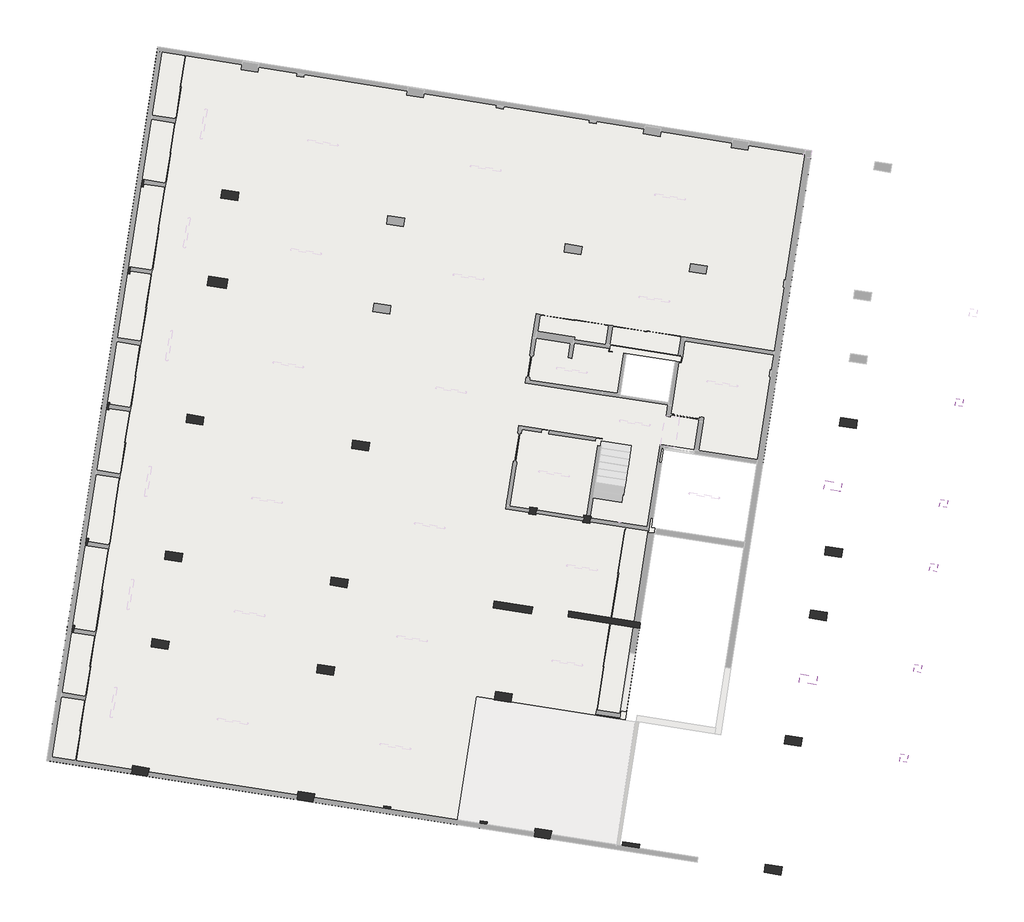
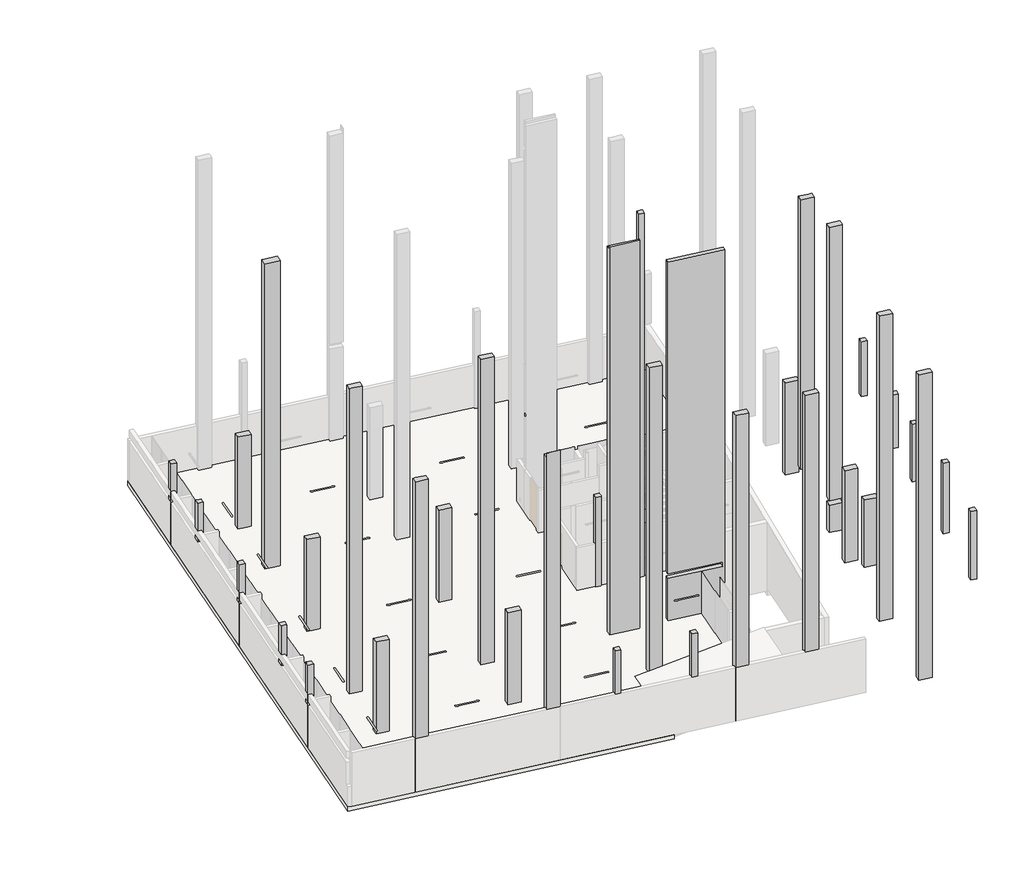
# One storey, part 2 of 5: 36 columns, 1 slab.
"""IFC4 building model written with IfcOpenShell, lengths in millimetres."""

import ifcopenshell
import ifcopenshell.guid

model = None  # the IFC model being written
_history = None  # IfcOwnerHistory: only IFC2X3 demands one
_inside = {}  # id of a spatial element -> (the spatial element, [elements in it])
_under = {}  # id of a project, library or spatial element -> (it, [spatial elements below it])
_declared = {}  # id of a project -> (the project, [libraries it declares])
_typed = {}  # id of a type object -> (the type object, [elements of that type])
_made_of = {}  # id of a material, layer set ... -> (it, [elements and type objects made of it])


def new_model(schema):
    """Start an empty IFC model of exactly this schema.

    Asked for "IFC4X3", IfcOpenShell would pick the latest addendum, in which some entities
    have other attributes; the version numbers below select the first issue.
    IFC2X3 requires an IfcOwnerHistory on every rooted entity: one is made here for all.
    """
    global model, _history
    if schema == "IFC4X3":
        model = ifcopenshell.file(schema_version=(4, 3, 0, 0))
    else:
        model = ifcopenshell.file(schema=schema)
    _inside.clear()
    _under.clear()
    _declared.clear()
    _typed.clear()
    _made_of.clear()
    _history = None
    if model.schema == "IFC2X3":
        org = make("IfcOrganization", Name="unknown")
        user = make(
            "IfcPersonAndOrganization",
            ThePerson=make("IfcPerson", FamilyName="unknown"),
            TheOrganization=org,
        )
        app = make(
            "IfcApplication",
            ApplicationDeveloper=org,
            Version="unknown",
            ApplicationFullName="unknown",
            ApplicationIdentifier="unknown",
        )
        _history = make(
            "IfcOwnerHistory",
            OwningUser=user,
            OwningApplication=app,
            ChangeAction="ADDED",
            CreationDate=0,
        )
    return model


def make(cls, **values):
    """One entity of the class cls with the attributes given. An attribute that is None is left unset."""
    return model.create_entity(
        cls, **{name: value for name, value in values.items() if value is not None}
    )


def rooted(cls, **values):
    """An entity with a GlobalId (a new one), such as an element, a storey or a relation."""
    return make(cls, GlobalId=ifcopenshell.guid.new(), OwnerHistory=_history, **values)


def si_unit(unit_type, name, prefix=None):
    """IfcSIUnit, for example si_unit("LENGTHUNIT", "METRE", prefix="MILLI")."""
    return make("IfcSIUnit", UnitType=unit_type, Prefix=prefix, Name=name)


def assignment(units):
    """IfcUnitAssignment: the units of a project."""
    return None if units is None else make("IfcUnitAssignment", Units=units)


def point(xyz):
    """IfcCartesianPoint."""
    return None if xyz is None else make("IfcCartesianPoint", Coordinates=xyz)


def direction(xyz):
    """IfcDirection."""
    return None if xyz is None else make("IfcDirection", DirectionRatios=xyz)


def frame(location, z_axis=None, x_axis=None):
    """IfcAxis2Placement3D, a coordinate frame: its origin and axes. An axis left out is left unset."""
    return make(
        "IfcAxis2Placement3D",
        Location=point(location),
        Axis=direction(z_axis),
        RefDirection=direction(x_axis),
    )


def origin():
    """The frame at (0, 0, 0) with its axes left unset."""
    return frame((0.0, 0.0, 0.0))


def place(relative_to, where):
    """IfcLocalPlacement: puts the frame where relative to a parent placement (None: the world)."""
    return make(
        "IfcLocalPlacement", PlacementRelTo=relative_to, RelativePlacement=where
    )


def context(
    kind, dimensions, precision=None, world=None, true_north=None, identifier=None
):
    """IfcGeometricRepresentationContext, for example the 3D "Model" context."""
    return make(
        "IfcGeometricRepresentationContext",
        ContextIdentifier=identifier,
        ContextType=kind,
        CoordinateSpaceDimension=dimensions,
        Precision=precision,
        WorldCoordinateSystem=world,
        TrueNorth=true_north,
    )


def project(units=None, contexts=None):
    """IfcProject with its units and contexts."""
    return rooted(
        "IfcProject",
        Name="project",
        RepresentationContexts=contexts,
        UnitsInContext=assignment(units),
    )


def spatial(cls, under=None, at=None, **own):
    """A site, building, storey or space (cls), placed at a placement, below another one or the project."""
    s = rooted(cls, ObjectPlacement=at, **own)
    if under is not None:
        _under.setdefault(under.id(), (under, []))[1].append(s)
    return s


def polyline(points):
    """IfcPolyline through the points."""
    return make("IfcPolyline", Points=[point(p) for p in points])


def outline(outer, holes=None, kind="AREA"):
    """IfcArbitraryClosedProfileDef: a profile drawn as a closed curve; with holes, ...WithVoids."""
    if holes is None:
        return make("IfcArbitraryClosedProfileDef", ProfileType=kind, OuterCurve=outer)
    return make(
        "IfcArbitraryProfileDefWithVoids",
        ProfileType=kind,
        OuterCurve=outer,
        InnerCurves=holes,
    )


def extrude(swept, where, along, depth):
    """IfcExtrudedAreaSolid: the profile swept, set in the frame where, extruded along a direction by depth."""
    return make(
        "IfcExtrudedAreaSolid",
        SweptArea=swept,
        Position=where,
        ExtrudedDirection=direction(along),
        Depth=depth,
    )


def faces_of(points, faces, orient=None, outer=None):
    """IfcFace entities. A face is a list of loops; a loop is a list of indices into points, from 0.

    orient and outer hold one flag for each loop. By default every Orientation is true, the
    first loop of a face is its IfcFaceOuterBound and the others are IfcFaceBound.
    """
    made = []
    for i, loops in enumerate(faces):
        bounds = []
        for j, loop in enumerate(loops):
            is_outer = j == 0 if outer is None else outer[i][j]
            bounds.append(
                make(
                    "IfcFaceOuterBound" if is_outer else "IfcFaceBound",
                    Bound=make("IfcPolyLoop", Polygon=[points[k] for k in loop]),
                    Orientation=True if orient is None else orient[i][j],
                )
            )
        made.append(make("IfcFace", Bounds=bounds))
    return made


def faceted_brep(points, faces, orient=None, outer=None, voids=None):
    """IfcFacetedBrep: a solid bounded by flat faces; with voids (closed shells), ...WithVoids."""
    shared = [point(p) for p in points]
    hull = make("IfcClosedShell", CfsFaces=faces_of(shared, faces, orient, outer))
    if voids is None:
        return make("IfcFacetedBrep", Outer=hull)
    return make(
        "IfcFacetedBrepWithVoids",
        Outer=hull,
        Voids=[
            make(cls, CfsFaces=faces_of(shared, fs, o, b)) for cls, fs, o, b in voids
        ],
    )


def shape(context_of_items, identifier, shape_type, items):
    """IfcShapeRepresentation: the items that make up one representation, for example the "Body"."""
    return make(
        "IfcShapeRepresentation",
        ContextOfItems=context_of_items,
        RepresentationIdentifier=identifier,
        RepresentationType=shape_type,
        Items=items,
    )


def made_of(thing, what):
    """Note that an element or type object is made of a material, layer set ...; save() writes the relation."""
    if what is not None:
        _made_of.setdefault(what.id(), (what, []))[1].append(thing)
    return thing


def element(
    cls,
    number,
    at=None,
    inside=None,
    cuts=None,
    type_object=None,
    material=None,
    context=None,
    identifier="Body",
    shape_type=None,
    held_by="IfcProductDefinitionShape",
    body=None,
    shapes=None,
    **own,
):
    """One element of the class cls, such as IfcWall. Its Tag is "e" and its number.

    at: its placement. inside: the storey or other place that contains it. cuts: it is an
    opening in that element (IfcRelVoidsElement). A single representation is given by context,
    identifier, shape_type and body (its items); several are given by shapes. held_by: the class
    of the entity that holds the representations. save() writes the other relations.
    """
    e = rooted(cls, Tag="e%d" % number, ObjectPlacement=at, **own)
    if body is not None:
        shapes = [shape(context, identifier, shape_type, body)]
    if shapes is not None:
        e.Representation = make(held_by, Representations=shapes)
    if inside is not None:
        _inside.setdefault(inside.id(), (inside, []))[1].append(e)
    if cuts is not None:
        rooted(
            "IfcRelVoidsElement", RelatingBuildingElement=cuts, RelatedOpeningElement=e
        )
    if type_object is not None:
        _typed.setdefault(type_object.id(), (type_object, []))[1].append(e)
    return made_of(e, material)


def aggregate(whole, parts):
    """IfcRelAggregates: a whole, such as a stair, and the parts it consists of."""
    return rooted("IfcRelAggregates", RelatingObject=whole, RelatedObjects=parts)


def save(model, path):
    """Write the relations noted so far, then the file.

    IfcRelAggregates (storeys below a building ...), IfcRelContainedInSpatialStructure (elements
    in a storey), IfcRelDefinesByType, IfcRelAssociatesMaterial and IfcRelDeclares: one each for
    every whole, place, type object, material and project.
    """
    for whole, parts in _under.values():
        aggregate(whole, parts)
    for where, things in _inside.values():
        rooted(
            "IfcRelContainedInSpatialStructure",
            RelatedElements=things,
            RelatingStructure=where,
        )
    for kind, things in _typed.values():
        rooted("IfcRelDefinesByType", RelatedObjects=things, RelatingType=kind)
    for what, things in _made_of.values():
        rooted("IfcRelAssociatesMaterial", RelatedObjects=things, RelatingMaterial=what)
    for by, libraries in _declared.values():
        rooted("IfcRelDeclares", RelatingContext=by, RelatedDefinitions=libraries)
    model.write(path)


model = new_model("IFC4")

# Units and contexts
model_context = context("Model", 3, world=origin())
ifc_project = project(units=[si_unit("LENGTHUNIT", "METRE", prefix="MILLI")], contexts=[model_context])

# Site, building, storey
site = spatial("IfcSite", under=ifc_project)
building = spatial("IfcBuilding", under=site)
storey = spatial("IfcBuildingStorey", under=building, Name="SÓTANO 2", Elevation=-5800.0)

# Columns
placement = place(None, origin())
element("IfcColumn", 1, ObjectType="M_Hormigón-Rectangular-Pilar : C1 (30 X 30)", at=placement, inside=storey, context=model_context, shape_type="Brep", body=[
    faceted_brep([(-33742.5716345, -69369.5377689, -5800.0), (-33733.4293193, -69310.8841223, -5800.0), (-33710.3278374, -69162.6737262, -5800.0), (-33696.3686707, -69073.1169766, -5800.0), (-33577.8003824, -69091.5981576, -5800.0), (-33429.5899863, -69114.6996395, -5800.0), (-33399.9478784, -69119.3199404, -5800.0), (-33409.2867487, -69179.2346107, -5800.0), (-33437.008527, -69357.0870861, -5800.0), (-33446.1508422, -69415.7407327, -5800.0), (-33742.5716345, -69369.5377689, 16000.0), (-33730.2508281, -69290.492121, 16000.0), (-33696.3686707, -69073.1169766, 16000.0), (-33696.3686707, -69073.1169766, 12800.0), (-33696.3686707, -69073.1169766, 9600.0), (-33696.3686707, -69073.1169766, 6400.0), (-33696.3686707, -69073.1169766, 3200.0), (-33696.3686707, -69073.1169766, 0.0), (-33742.5716345, -69369.5377689, 0.0), (-33742.5716345, -69369.5377689, 2920.0), (-33742.5716345, -69369.5377689, 3200.0), (-33742.5716345, -69369.5377689, 6120.0), (-33742.5716345, -69369.5377689, 6400.0), (-33742.5716345, -69369.5377689, 9320.0), (-33742.5716345, -69369.5377689, 9600.0), (-33742.5716345, -69369.5377689, 12520.0), (-33742.5716345, -69369.5377689, 12800.0), (-33742.5716345, -69369.5377689, 15720.0), (-33587.6810469, -69090.0580633, 16000.0), (-33508.6355022, -69102.3788536, 16000.0), (-33399.9478784, -69119.3199404, 16000.0), (-33399.9478784, -69119.3199404, 12800.0), (-33399.9478784, -69119.3199404, 9600.0), (-33399.9478784, -69119.3199404, 6400.0), (-33399.9478784, -69119.3199404, 3200.0), (-33399.9478784, -69119.3199404, 0.0), (-33419.9691456, -69247.7688407, 16000.0), (-33423.0493432, -69267.5302268, 16000.0), (-33446.1508422, -69415.7407327, 16000.0), (-33446.1508422, -69415.7407327, 15720.0), (-33446.1508422, -69415.7407327, 12800.0), (-33446.1508422, -69415.7407327, 12520.0), (-33446.1508422, -69415.7407327, 9600.0), (-33446.1508422, -69415.7407327, 9320.0), (-33446.1508422, -69415.7407327, 6400.0), (-33446.1508422, -69415.7407327, 6120.0), (-33446.1508422, -69415.7407327, 3200.0), (-33446.1508422, -69415.7407327, 0.0)], [[[0, 1, 2, 3, 4, 5, 6, 7, 8, 9]], [[10, 11, 12, 13, 14, 15, 16, 17, 3, 2, 1, 0, 18, 19, 20, 21, 22, 23, 24, 25, 26, 27]], [[12, 28, 29, 30, 31, 32, 33, 34, 35, 6, 5, 4, 3, 17, 16, 15, 14, 13]], [[30, 36, 37, 38, 39, 40, 41, 42, 43, 44, 45, 46, 47, 9, 8, 7, 6, 35, 34, 33, 32, 31]], [[38, 10, 27, 26, 25, 24, 23, 22, 21, 20, 19, 18, 0, 9, 47, 46, 45, 44, 43, 42, 41, 40, 39]], [[10, 38, 37, 36, 30, 29, 28, 12, 11]]]),
])
element("IfcColumn", 2, ObjectType="M_Hormigón-Rectangular-Pilar : C1 (30 X 30)", at=placement, inside=storey, context=model_context, shape_type="Brep", body=[
    faceted_brep([(-35980.5488549, -69020.7053495, -5800.0), (-35971.4065402, -68962.0517084, -5800.0), (-35948.3050574, -68813.8413123, -5800.0), (-35934.3458893, -68724.2845574, -5800.0), (-35637.9250973, -68770.4875229, -5800.0), (-35651.8842651, -68860.0442761, -5800.0), (-35674.9857479, -69008.2546722, -5800.0), (-35684.1280628, -69066.908315, -5800.0), (-35980.5488549, -69020.7053495, -430.0), (-35971.4065402, -68962.0517086, -430.0), (-35948.3050575, -68813.8413125, -430.0), (-35934.3458893, -68724.2845574, -430.0), (-35934.3458893, -68724.2845574, -450.0), (-35810.837034, -68743.535823, -430.0), (-35637.9250973, -68770.4875229, -430.0), (-35651.8842651, -68860.0442763, -430.0), (-35674.9857479, -69008.2546724, -430.0), (-35684.1280628, -69066.908315, -430.0)], [[[0, 1, 2, 3, 4, 5, 6, 7]], [[8, 9, 10, 11, 12, 3, 2, 1, 0]], [[11, 13, 14, 4, 3, 12]], [[14, 15, 16, 17, 7, 6, 5, 4]], [[17, 8, 0, 7]], [[8, 17, 16, 15, 14, 13, 11, 10, 9]]]),
])
element("IfcColumn", 3, ObjectType="M_Hormigón-Rectangular-Pilar : C1 (30 X 30)", at=placement, inside=storey, context=model_context, shape_type="SweptSolid", body=[
    extrude(outline(polyline([(-42032.6110255, -81421.5791362), (-41986.4080618, -81125.1583439), (-41689.9872694, -81171.3613077), (-41736.1902332, -81467.7821), (-42032.6110255, -81421.5791362)])), frame((0.0, 0.0, -5800.0), z_axis=(0.0, 0.0, 1.0), x_axis=(1.0, 0.0, 0.0)), (0.0, 0.0, 1.0), 5800.0),
])
element("IfcColumn", 4, ObjectType="M_Hormigón-Rectangular-Pilar : C1 (30 X 30)", at=placement, inside=storey, context=model_context, shape_type="SweptSolid", body=[
    extrude(outline(polyline([(-38040.8110247, -82043.7790481), (-37994.6080609, -81747.3582558), (-37698.1872686, -81793.5612195), (-37744.3902323, -82089.9820119), (-38040.8110247, -82043.7790481)])), frame((0.0, 0.0, -5800.0), z_axis=(0.0, 0.0, 1.0), x_axis=(1.0, 0.0, 0.0)), (0.0, 0.0, 1.0), 5800.0),
])
element("IfcColumn", 5, ObjectType="M_Hormigón-Rectangular-Pilar : C1 (30 X 30)", at=placement, inside=storey, context=model_context, shape_type="Brep", body=[
    faceted_brep([(-55124.0426326, -73891.164579, -5800.0), (-55077.8396689, -73594.7437866, -5800.0), (-54781.4188765, -73640.9467504, -5800.0), (-54802.1118601, -73773.7051298, -5800.0), (-54827.6218403, -73937.3675428, -5800.0), (-54926.4287711, -73921.9665548, -5800.0), (-55124.0426326, -73891.164579, -836.6888507), (-55077.8396689, -73594.7437866, -836.6888507), (-54781.4188765, -73640.9467504, -836.6888507), (-54802.1118601, -73773.7051298, -836.6888507), (-54827.6218403, -73937.3675428, -836.6888507), (-54827.6218403, -73937.3675428, -3000.0), (-54926.4287711, -73921.9665548, -836.6888507)], [[[0, 1, 2, 3, 4, 5]], [[6, 7, 1, 0]], [[7, 8, 2, 1]], [[8, 9, 10, 11, 4, 3, 2]], [[10, 12, 6, 0, 5, 4, 11]], [[6, 12, 10, 9, 8, 7]]]),
])
element("IfcColumn", 6, ObjectType="M_Hormigón-Rectangular-Pilar : C1 (30 X 30)", at=placement, inside=storey, context=model_context, shape_type="Brep", body=[
    faceted_brep([(-54561.9065728, -70284.7116023, -5800.0), (-54515.703609, -69988.2908099, -5800.0), (-54219.2828166, -70034.4937737, -5800.0), (-54239.9758005, -70167.2521545, -5800.0), (-54265.4857804, -70330.9145661, -5800.0), (-54364.2927112, -70315.5135781, -5800.0), (-54561.9065728, -70284.7116023, -862.264819), (-54515.703609, -69988.2908099, -862.264819), (-54219.2828166, -70034.4937737, -862.264819), (-54239.9758005, -70167.2521545, -862.264819), (-54265.4857804, -70330.9145661, -862.264819), (-54265.4857804, -70330.9145661, -3000.0), (-54364.2927112, -70315.5135781, -862.264819)], [[[0, 1, 2, 3, 4, 5]], [[6, 7, 1, 0]], [[7, 8, 2, 1]], [[8, 9, 10, 11, 4, 3, 2]], [[10, 12, 6, 0, 5, 4, 11]], [[6, 12, 10, 9, 8, 7]]]),
])
element("IfcColumn", 7, ObjectType="M_Hormigón-Rectangular-Pilar : C1 (30 X 30)", at=placement, inside=storey, context=model_context, shape_type="Brep", body=[
    faceted_brep([(-53685.6318804, -64662.8636222, -5800.0), (-53639.4289166, -64366.4428299, -5800.0), (-53343.0081243, -64412.6457936, -5800.0), (-53352.1503499, -64471.2988658, -5800.0), (-53379.8721282, -64649.1513412, -5800.0), (-53389.2110881, -64709.066586, -5800.0), (-53685.6318804, -64662.8636222, -902.5120741), (-53639.4289166, -64366.4428299, -902.5120741), (-53343.0081243, -64412.6457936, -902.5120741), (-53352.1503499, -64471.2988658, -902.5120741), (-53379.8721282, -64649.1513412, -902.5120741), (-53389.2110881, -64709.066586, -902.5120741)], [[[0, 1, 2, 3, 4, 5]], [[6, 7, 1, 0]], [[7, 8, 2, 1]], [[8, 9, 10, 11, 5, 4, 3, 2]], [[11, 6, 0, 5]], [[6, 11, 10, 9, 8, 7]]]),
])
element("IfcColumn", 8, ObjectType="M_Hormigón-Rectangular-Pilar : C1 (30 X 30)", at=placement, inside=storey, context=model_context, shape_type="Brep", body=[
    faceted_brep([(-52809.357188, -59041.015642, -5800.0), (-52763.1542242, -58744.5948496, -5800.0), (-52565.5403627, -58775.3968255, -5800.0), (-52466.7334319, -58790.7978134, -5800.0), (-52492.0466738, -58953.1980279, -5800.0), (-52512.9363957, -59087.2186058, -5800.0), (-52809.357188, -59041.015642, -943.2277788), (-52763.1542242, -58744.5948496, -943.2277788), (-52565.5403627, -58775.3968255, -943.2277788), (-52466.7334319, -58790.7978134, -943.2277788), (-52466.7334319, -58790.7978134, -3000.0), (-52492.0466738, -58953.1980279, -943.2277788), (-52512.9363957, -59087.2186058, -943.2277788)], [[[0, 1, 2, 3, 4, 5]], [[6, 7, 1, 0]], [[7, 8, 9, 10, 3, 2, 1]], [[9, 11, 12, 5, 4, 3, 10]], [[12, 6, 0, 5]], [[6, 12, 11, 9, 8, 7]]]),
])
element("IfcColumn", 9, ObjectType="M_Hormigón-Rectangular-Pilar : C1 (30 X 30)", at=placement, inside=storey, context=model_context, shape_type="Brep", body=[
    faceted_brep([(-52247.2211281, -55434.5626653, -5800.0), (-52201.0181644, -55138.1418729, -5800.0), (-52003.4043028, -55168.9438488, -5800.0), (-51904.597372, -55184.3448367, -5800.0), (-51929.910618, -55346.7450771, -5800.0), (-51950.8003358, -55480.7656291, -5800.0), (-52247.2211281, -55434.5626653, -969.5976271), (-52201.0181644, -55138.1418729, -969.5976271), (-52003.4043028, -55168.9438488, -969.5976271), (-51904.597372, -55184.3448367, -969.5976271), (-51904.597372, -55184.3448367, -3000.0), (-51904.597372, -55184.3448367, -3260.0), (-51905.2690369, -55188.6539851, -969.5976271), (-51950.8003358, -55480.7656291, -969.5976271)], [[[0, 1, 2, 3, 4, 5]], [[6, 7, 1, 0]], [[7, 8, 9, 10, 11, 3, 2, 1]], [[9, 12, 13, 5, 4, 3, 11, 10]], [[13, 6, 0, 5]], [[6, 13, 12, 9, 8, 7]]]),
])
element("IfcColumn", 10, ObjectType="M_Hormigón-Rectangular-Pilar : C1 (30 X 30)", at=placement, inside=storey, context=model_context, shape_type="SweptSolid", body=[
    extrude(outline(polyline([(-20610.7816826, -79270.7296666), (-20564.5787188, -78974.3088743), (-20268.1579265, -79020.511838), (-20314.3608903, -79316.9326304), (-20610.7816826, -79270.7296666)])), frame((0.0, 0.0, -4544.0026097), z_axis=(0.0, 0.0, 1.0), x_axis=(1.0, 0.0, 0.0)), (0.0, 0.0, 1.0), 4114.0026097),
])
element("IfcColumn", 11, ObjectType="M_Hormigón-Rectangular-Pilar : C1 (30 X 30)", at=placement, inside=storey, context=model_context, shape_type="SweptSolid", body=[
    extrude(outline(polyline([(-20031.7045555, -75555.589191), (-19985.5015917, -75259.1683986), (-19689.0807994, -75305.3713624), (-19735.2837631, -75601.7921548), (-20031.7045555, -75555.589191)])), frame((0.0, 0.0, -4225.1112147), z_axis=(0.0, 0.0, 1.0), x_axis=(1.0, 0.0, 0.0)), (0.0, 0.0, 1.0), 4225.1112147),
])
element("IfcColumn", 12, ObjectType="M_Hormigón-Rectangular-Pilar : C1 (30 X 30)", at=placement, inside=storey, context=model_context, shape_type="SweptSolid", body=[
    extrude(outline(polyline([(-19379.4727517, -71371.1158966), (-19333.2697879, -71074.6951043), (-19036.8489956, -71120.8980681), (-19083.0519593, -71417.3188604), (-19379.4727517, -71371.1158966)])), frame((0.0, 0.0, -3865.9343451), z_axis=(0.0, 0.0, 1.0), x_axis=(1.0, 0.0, 0.0)), (0.0, 0.0, 1.0), 3435.9343451),
])
element("IfcColumn", 13, ObjectType="M_Hormigón-Rectangular-Pilar : C1 (30 X 30)", at=placement, inside=storey, context=model_context, shape_type="SweptSolid", body=[
    extrude(outline(polyline([(-18965.1861782, -68713.2094702), (-18918.9832145, -68416.7886778), (-18622.5624221, -68462.9916416), (-18668.7653859, -68759.412434), (-18965.1861782, -68713.2094702)])), frame((0.0, 0.0, -3637.7912928), z_axis=(0.0, 0.0, 1.0), x_axis=(1.0, 0.0, 0.0)), (0.0, 0.0, 1.0), 3207.7912928),
])
element("IfcColumn", 14, ObjectType="M_Hormigón-Rectangular-Pilar : C1 (30 X 30)", at=placement, inside=storey, context=model_context, shape_type="SweptSolid", body=[
    extrude(outline(polyline([(-18313.0373082, -64529.2682475), (-18266.8343444, -64232.8474551), (-17970.413552, -64279.0504189), (-18016.6165158, -64575.4712112), (-18313.0373082, -64529.2682475)])), frame((0.0, 0.0, -3278.6600939), z_axis=(0.0, 0.0, 1.0), x_axis=(1.0, 0.0, 0.0)), (0.0, 0.0, 1.0), 3278.6600939),
])
element("IfcColumn", 15, ObjectType="M_Hormigón-Rectangular-Pilar : C3 (35 X 70)", at=placement, inside=storey, context=model_context, shape_type="Brep", body=[
    faceted_brep([(-52397.898828, -79451.7233346, -5800.0), (-51706.2503125, -79559.5302501, -5800.0), (-51729.4496376, -79708.3683712, -5800.0), (-51760.1537702, -79905.3545078, -5800.0), (-52451.8022857, -79797.5475923, -5800.0), (-52421.0981531, -79600.5614557, -5800.0), (-52397.898828, -79451.7233346, 12800.0), (-52249.6884069, -79474.8248204, 12800.0), (-51814.9379364, -79542.5891634, 12800.0), (-51706.2503125, -79559.5302501, 12800.0), (-51706.2503125, -79559.5302501, 9600.0), (-51706.2503125, -79559.5302501, 6400.0), (-51706.2503125, -79559.5302501, 3200.0), (-51706.2503125, -79559.5302501, 0.0), (-52397.898828, -79451.7233346, -150.0), (-52397.898828, -79451.7233346, 2920.0), (-52397.898828, -79451.7233346, 3200.0), (-52397.898828, -79451.7233346, 6400.0), (-52397.898828, -79451.7233346, 9600.0), (-51738.5919356, -79767.0219081, 12800.0), (-51760.1537702, -79905.3545078, 12800.0), (-51760.1537702, -79905.3545078, 12520.0), (-51760.1537702, -79905.3545078, 9600.0), (-51760.1537702, -79905.3545078, 9320.0), (-51760.1537702, -79905.3545078, 6400.0), (-51760.1537702, -79905.3545078, 6120.0), (-51760.1537702, -79905.3545078, 3200.0), (-51760.1537702, -79905.3545078, 2920.0), (-51760.1537702, -79905.3545078, 0.0), (-51760.1537702, -79905.3545078, -280.0), (-51760.1537702, -79905.3545078, -2600.0), (-51760.1537702, -79905.3545078, -4580.0), (-52387.5777786, -79807.5582348, 12800.0), (-52451.8022857, -79797.5475923, 12800.0), (-52451.8022857, -79797.5475923, 9600.0), (-52451.8022857, -79797.5475923, 6400.0), (-52451.8022857, -79797.5475923, 3200.0), (-52451.8022857, -79797.5475923, 0.0), (-52451.8022857, -79797.5475923, -2600.0), (-52438.7571975, -79713.8552253, 12800.0), (-52410.9434606, -79535.4127784, 12800.0)], [[[0, 1, 2, 3, 4, 5]], [[6, 7, 8, 9, 10, 11, 12, 13, 1, 0, 14, 15, 16, 17, 18]], [[9, 19, 20, 21, 22, 23, 24, 25, 26, 27, 28, 29, 30, 31, 3, 2, 1, 13, 12, 11, 10]], [[20, 32, 33, 34, 35, 36, 37, 38, 4, 3, 31, 30, 29, 28, 27, 26, 25, 24, 23, 22, 21]], [[33, 39, 40, 6, 18, 17, 16, 15, 14, 0, 5, 4, 38, 37, 36, 35, 34]], [[6, 40, 39, 33, 32, 20, 19, 9, 8, 7]]]),
])
element("IfcColumn", 16, ObjectType="M_Hormigón-Rectangular-Pilar : C3 (35 X 70)", at=placement, inside=storey, context=model_context, shape_type="Brep", body=[
    faceted_brep([(-35719.2884885, -82051.4074621, -5800.0), (-35027.6399731, -82159.2143776, -5800.0), (-35050.8397091, -82308.0551354, -5800.0), (-35081.5434308, -82505.0386353, -5800.0), (-35773.1919463, -82397.2317198, -5800.0), (-35742.4882246, -82200.2482199, -5800.0), (-35719.2884885, -82051.4074621, -150.0), (-35719.2884885, -82051.4074621, 3200.0), (-35719.2884885, -82051.4074621, 6400.0), (-35719.2884885, -82051.4074621, 9600.0), (-35719.2884885, -82051.4074621, 12520.0), (-35027.6399731, -82159.2143776, 12520.0), (-35027.6399731, -82159.2143776, 9600.0), (-35027.6399731, -82159.2143776, 6400.0), (-35027.6399731, -82159.2143776, 3200.0), (-35027.6399731, -82159.2143776, 0.0), (-35058.4419084, -82356.8279792, 12520.0), (-35081.5434308, -82505.0386353, 12520.0), (-35081.5434308, -82505.0386353, 9600.0), (-35081.5434308, -82505.0386353, 9320.0), (-35081.5434308, -82505.0386353, 6400.0), (-35081.5434308, -82505.0386353, 6120.0), (-35081.5434308, -82505.0386353, 3200.0), (-35081.5434308, -82505.0386353, 2920.0), (-35081.5434308, -82505.0386353, 0.0), (-35081.5434308, -82505.0386353, -2600.0), (-35773.1919463, -82397.2317198, 12520.0), (-35773.1919463, -82397.2317198, 9600.0), (-35773.1919463, -82397.2317198, 6400.0), (-35773.1919463, -82397.2317198, 3200.0), (-35773.1919463, -82397.2317198, 0.0), (-35773.1919463, -82397.2317198, -2600.0)], [[[0, 1, 2, 3, 4, 5]], [[1, 0, 6, 7, 8, 9, 10, 11, 12, 13, 14, 15]], [[3, 2, 1, 15, 14, 13, 12, 11, 16, 17, 18, 19, 20, 21, 22, 23, 24, 25]], [[4, 3, 25, 24, 23, 22, 21, 20, 19, 18, 17, 26, 27, 28, 29, 30, 31]], [[0, 5, 4, 31, 30, 29, 28, 27, 26, 10, 9, 8, 7, 6]], [[11, 10, 26, 17, 16]]]),
])
element("IfcColumn", 17, ObjectType="M_Hormigón-Rectangular-Pilar : C3 (35 X 70)", at=placement, inside=storey, context=model_context, shape_type="Brep", body=[
    faceted_brep([(-26174.538936, -83539.1426327, -5800.0), (-25482.890421, -83646.9495514, -5800.0), (-25536.7938803, -83992.7738089, -5800.0), (-26228.4423953, -83884.9668902, -5800.0), (-26174.538936, -83539.1426327, 0.0), (-26174.538936, -83539.1426327, 2920.0), (-26174.538936, -83539.1426327, 3200.0), (-26174.538936, -83539.1426327, 6400.0), (-26174.538936, -83539.1426327, 9600.0), (-26174.538936, -83539.1426327, 12520.0), (-25640.9815101, -83622.30797, 12520.0), (-25482.890421, -83646.9495514, 12520.0), (-25482.890421, -83646.9495514, 9600.0), (-25482.890421, -83646.9495514, 6400.0), (-25482.890421, -83646.9495514, 3200.0), (-25482.890421, -83646.9495514, -150.0), (-25536.7938803, -83992.7738089, 12520.0), (-25536.7938803, -83992.7738089, 9600.0), (-25536.7938803, -83992.7738089, 6400.0), (-25536.7938803, -83992.7738089, 3200.0), (-25536.7938803, -83992.7738089, 0.0), (-26228.4423953, -83884.9668902, 12520.0), (-26228.4423953, -83884.9668902, 9600.0), (-26228.4423953, -83884.9668902, 6400.0), (-26228.4423953, -83884.9668902, 3200.0), (-26228.4423953, -83884.9668902, 0.0)], [[[0, 1, 2, 3]], [[1, 0, 4, 5, 6, 7, 8, 9, 10, 11, 12, 13, 14, 15]], [[2, 1, 15, 14, 13, 12, 11, 16, 17, 18, 19, 20]], [[3, 2, 20, 19, 18, 17, 16, 21, 22, 23, 24, 25]], [[0, 3, 25, 24, 23, 22, 21, 9, 8, 7, 6, 5, 4]], [[11, 10, 9, 21, 16]]]),
])
element("IfcColumn", 18, ObjectType="M_Hormigón-Rectangular-Pilar : C3 (35 X 70)", at=placement, inside=storey, context=model_context, shape_type="Brep", body=[
    faceted_brep([(-37355.6281739, -76381.7517983, -5800.0), (-36663.9796584, -76489.5587138, -5800.0), (-36717.8831162, -76835.3829715, -5800.0), (-37409.5316317, -76727.576056, -5800.0), (-37355.6281739, -76381.7517983, 0.0), (-37355.6281739, -76381.7517983, 2920.0), (-37355.6281739, -76381.7517983, 3200.0), (-37355.6281739, -76381.7517983, 6400.0), (-37355.6281739, -76381.7517983, 9600.0), (-37355.6281739, -76381.7517983, 12520.0), (-36772.6672823, -76472.6176271, 12520.0), (-36663.9796584, -76489.5587138, 12520.0), (-36663.9796584, -76489.5587138, 9600.0), (-36663.9796584, -76489.5587138, 9320.0), (-36663.9796584, -76489.5587138, 6400.0), (-36663.9796584, -76489.5587138, 6120.0), (-36663.9796584, -76489.5587138, 3200.0), (-36663.9796584, -76489.5587138, 2920.0), (-36663.9796584, -76489.5587138, 0.0), (-36704.7922753, -76751.3970728, 12520.0), (-36717.8831162, -76835.3829715, 12520.0), (-36717.8831162, -76835.3829715, 9600.0), (-36717.8831162, -76835.3829715, 6400.0), (-36717.8831162, -76835.3829715, 6120.0), (-36717.8831162, -76835.3829715, 3200.0), (-36717.8831162, -76835.3829715, 2920.0), (-36717.8831162, -76835.3829715, 0.0), (-36717.8831162, -76835.3829715, -2200.0), (-36717.8831162, -76835.3829715, -3000.0), (-36806.8093539, -76821.5220824, 12520.0), (-37350.2474732, -76736.8166488, 12520.0), (-37409.5316317, -76727.576056, 12520.0), (-37409.5316317, -76727.576056, 9600.0), (-37409.5316317, -76727.576056, 6400.0), (-37409.5316317, -76727.576056, 3200.0), (-37409.5316317, -76727.576056, 2920.0), (-37409.5316317, -76727.576056, 0.0), (-37409.5316317, -76727.576056, -2200.0), (-37409.5316317, -76727.576056, -3000.0)], [[[0, 1, 2, 3]], [[1, 0, 4, 5, 6, 7, 8, 9, 10, 11, 12, 13, 14, 15, 16, 17, 18]], [[2, 1, 18, 17, 16, 15, 14, 13, 12, 11, 19, 20, 21, 22, 23, 24, 25, 26, 27, 28]], [[3, 2, 28, 27, 26, 25, 24, 23, 22, 21, 20, 29, 30, 31, 32, 33, 34, 35, 36, 37, 38]], [[0, 3, 38, 37, 36, 35, 34, 33, 32, 31, 9, 8, 7, 6, 5, 4]], [[11, 10, 9, 31, 30, 29, 20, 19]]]),
])
element("IfcColumn", 19, ObjectType="M_Hormigón-Rectangular-Pilar : C3 (35 X 70)", at=placement, inside=storey, context=model_context, shape_type="Brep", body=[
    faceted_brep([(-25342.2138638, -78199.2589806, -5800.0), (-24650.5653483, -78307.0658961, -5800.0), (-24704.468806, -78652.8901539, -5800.0), (-25396.1173215, -78545.0832384, -5800.0), (-25342.2138638, -78199.2589806, 0.0), (-25342.2138638, -78199.2589806, 3200.0), (-25342.2138638, -78199.2589806, 6400.0), (-25342.2138638, -78199.2589806, 9600.0), (-25342.2138638, -78199.2589806, 12520.0), (-24798.7757407, -78283.9644148, 12520.0), (-24650.5653483, -78307.0658961, 12520.0), (-24650.5653483, -78307.0658961, 9600.0), (-24650.5653483, -78307.0658961, 9320.0), (-24650.5653483, -78307.0658961, 6400.0), (-24650.5653483, -78307.0658961, 6120.0), (-24650.5653483, -78307.0658961, 3200.0), (-24650.5653483, -78307.0658961, 2920.0), (-24650.5653483, -78307.0658961, -150.0), (-24704.468806, -78652.8901539, 12520.0), (-24704.468806, -78652.8901539, 9600.0), (-24704.468806, -78652.8901539, 9320.0), (-24704.468806, -78652.8901539, 6400.0), (-24704.468806, -78652.8901539, 6120.0), (-24704.468806, -78652.8901539, 3200.0), (-24704.468806, -78652.8901539, -150.0), (-24852.6792001, -78629.7886723, 12520.0), (-25396.1173215, -78545.0832384, 12520.0), (-25396.1173215, -78545.0832384, 9600.0), (-25396.1173215, -78545.0832384, 6400.0), (-25396.1173215, -78545.0832384, 3200.0), (-25396.1173215, -78545.0832384, 2920.0), (-25396.1173215, -78545.0832384, 0.0)], [[[0, 1, 2, 3]], [[1, 0, 4, 5, 6, 7, 8, 9, 10, 11, 12, 13, 14, 15, 16, 17]], [[2, 1, 17, 16, 15, 14, 13, 12, 11, 10, 18, 19, 20, 21, 22, 23, 24]], [[3, 2, 24, 23, 22, 21, 20, 19, 18, 25, 26, 27, 28, 29, 30, 31]], [[0, 3, 31, 30, 29, 28, 27, 26, 8, 7, 6, 5, 4]], [[10, 9, 8, 26, 25, 18]]]),
])
element("IfcColumn", 20, ObjectType="M_Hormigón-Rectangular-Pilar : C3 (35 X 70)", at=placement, inside=storey, context=model_context, shape_type="Brep", body=[
    faceted_brep([(-23666.9453845, -70373.2590994, -5800.0), (-22975.296869, -70481.0660149, -5800.0), (-23029.2003267, -70826.8902726, -5800.0), (-23720.8488422, -70719.0833571, -5800.0), (-22975.296869, -70481.0660149, -4124.6933159), (-23666.9453845, -70373.2590994, -4124.6933159), (-23720.8488422, -70719.0833571, -4154.3773563), (-23029.2003267, -70826.8902726, -4154.3773563)], [[[0, 1, 2, 3]], [[4, 5, 6, 7]], [[1, 0, 5, 4]], [[2, 1, 4, 7]], [[3, 2, 7, 6]], [[0, 3, 6, 5]]]),
    faceted_brep([(-23419.9280754, -70411.7615664, 12520.0), (-22975.296869, -70481.0660149, 12520.0), (-22975.296869, -70481.0660149, 9600.0), (-22975.296869, -70481.0660149, 6400.0), (-22975.296869, -70481.0660149, 3200.0), (-22975.296869, -70481.0660149, -150.0), (-22975.296869, -70481.0660149, -3863.7599016), (-23666.9453845, -70373.2590994, -3863.7599016), (-23666.9453845, -70373.2590994, 0.0), (-23666.9453845, -70373.2590994, 3200.0), (-23666.9453845, -70373.2590994, 6400.0), (-23666.9453845, -70373.2590994, 9600.0), (-23666.9453845, -70373.2590994, 12520.0), (-23612.6016661, -70381.7296281, 12520.0), (-22998.3983509, -70629.2764112, 12520.0), (-23012.25924, -70718.2026487, 12520.0), (-23029.2003267, -70826.8902726, 12520.0), (-23029.2003267, -70826.8902726, 9600.0), (-23029.2003267, -70826.8902726, 6400.0), (-23029.2003267, -70826.8902726, 6120.0), (-23029.2003267, -70826.8902726, 3200.0), (-23029.2003267, -70826.8902726, 2920.0), (-23029.2003267, -70826.8902726, 0.0), (-23029.2003267, -70826.8902726, -3893.443942), (-23602.2806188, -70737.564528, 12520.0), (-23720.8488422, -70719.0833571, 12520.0), (-23720.8488422, -70719.0833571, 9600.0), (-23720.8488422, -70719.0833571, 9320.0), (-23720.8488422, -70719.0833571, 6400.0), (-23720.8488422, -70719.0833571, 6120.0), (-23720.8488422, -70719.0833571, 3200.0), (-23720.8488422, -70719.0833571, 2920.0), (-23720.8488422, -70719.0833571, 0.0), (-23720.8488422, -70719.0833571, -3893.443942), (-23674.6458784, -70422.6625648, 12520.0)], [[[0, 1, 2, 3, 4, 5, 6, 7, 8, 9, 10, 11, 12, 13]], [[1, 14, 15, 16, 17, 18, 19, 20, 21, 22, 23, 6, 5, 4, 3, 2]], [[16, 24, 25, 26, 27, 28, 29, 30, 31, 32, 33, 23, 22, 21, 20, 19, 18, 17]], [[25, 34, 12, 11, 10, 9, 8, 7, 33, 32, 31, 30, 29, 28, 27, 26]], [[1, 0, 13, 12, 34, 25, 24, 16, 15, 14]], [[7, 6, 23, 33]]]),
])
element("IfcColumn", 21, ObjectType="M_Hormigón-Rectangular-Pilar : C3 (35 X 70)", at=placement, inside=storey, context=model_context, shape_type="Brep", body=[
    faceted_brep([(-23697.2900297, -67646.0482113, -3635.6168483), (-23005.6415142, -67753.8551268, -3635.6168483), (-23059.5449719, -68099.6793845, -3635.6168483), (-23751.1934874, -67991.872469, -3635.6168483), (-23697.2900297, -67646.0482113, 0.0), (-23697.2900297, -67646.0482113, 3200.0), (-23697.2900297, -67646.0482113, 6400.0), (-23697.2900297, -67646.0482113, 9600.0), (-23697.2900297, -67646.0482113, 12520.0), (-23153.8519473, -67730.7536392, 12520.0), (-23005.6415142, -67753.8551268, 12520.0), (-23005.6415142, -67753.8551268, 9600.0), (-23005.6415142, -67753.8551268, 9320.0), (-23005.6415142, -67753.8551268, 6400.0), (-23005.6415142, -67753.8551268, 6120.0), (-23005.6415142, -67753.8551268, 3200.0), (-23005.6415142, -67753.8551268, 2920.0), (-23005.6415142, -67753.8551268, -150.0), (-23059.5449719, -68099.6793845, 12520.0), (-23059.5449719, -68099.6793845, 9600.0), (-23059.5449719, -68099.6793845, 9320.0), (-23059.5449719, -68099.6793845, 6400.0), (-23059.5449719, -68099.6793845, 6120.0), (-23059.5449719, -68099.6793845, 3200.0), (-23059.5449719, -68099.6793845, 2920.0), (-23059.5449719, -68099.6793845, -150.0), (-23207.7554051, -68076.5778969, 12520.0), (-23751.1934874, -67991.872469, 12520.0), (-23751.1934874, -67991.872469, 9600.0), (-23751.1934874, -67991.872469, 6400.0), (-23751.1934874, -67991.872469, 3200.0), (-23751.1934874, -67991.872469, 0.0)], [[[0, 1, 2, 3]], [[1, 0, 4, 5, 6, 7, 8, 9, 10, 11, 12, 13, 14, 15, 16, 17]], [[2, 1, 17, 16, 15, 14, 13, 12, 11, 10, 18, 19, 20, 21, 22, 23, 24, 25]], [[3, 2, 25, 24, 23, 22, 21, 20, 19, 18, 26, 27, 28, 29, 30, 31]], [[0, 3, 31, 30, 29, 28, 27, 8, 7, 6, 5, 4]], [[10, 9, 8, 27, 26, 18]]]),
])
element("IfcColumn", 22, ObjectType="M_Hormigón-Rectangular-Pilar : C3 (35 X 70)", at=placement, inside=storey, context=model_context, shape_type="Brep", body=[
    faceted_brep([(-48731.8065464, -55931.4571253, -5800.0), (-48677.9030906, -55585.6328673, -5800.0), (-47986.2545745, -55693.4397789, -5800.0), (-48040.1580303, -56039.2640369, -5800.0), (-48731.8065464, -55931.4571253, -280.0), (-48040.1580303, -56039.2640369, -280.0), (-47986.2545745, -55693.4397789, -3000.0), (-47986.2545745, -55693.4397789, -280.0), (-48002.3953628, -55796.9929939, -280.0), (-48677.9030906, -55585.6328673, -280.0), (-48613.6784627, -55595.6435282, -280.0)], [[[0, 1, 2, 3]], [[4, 0, 3, 5]], [[5, 3, 2, 6, 7, 8]], [[7, 6, 2, 1, 9, 10]], [[9, 1, 0, 4]], [[4, 5, 8, 7, 10, 9]]]),
])
element("IfcColumn", 23, ObjectType="M_Hormigón-Rectangular-Pilar : C3 (35 X 70)", at=placement, inside=storey, context=model_context, shape_type="SweptSolid", body=[
    extrude(outline(polyline([(-42632.8882137, -66410.3048998), (-43324.5367292, -66302.4979843), (-43270.6332714, -65956.6737265), (-42578.984756, -66064.480642), (-42632.8882137, -66410.3048998)])), frame((0.0, 0.0, -5800.0), z_axis=(0.0, 0.0, 1.0), x_axis=(1.0, 0.0, 0.0)), (0.0, 0.0, 1.0), 5520.0),
])
element("IfcColumn", 24, ObjectType="M_Hormigón-Rectangular-Pilar : C3 (35 X 70)", at=placement, inside=storey, context=model_context, shape_type="SweptSolid", body=[
    extrude(outline(polyline([(-49490.0894232, -65341.4763256), (-50181.7379387, -65233.6694101), (-50127.8344809, -64887.8451524), (-49436.1859655, -64995.6520679), (-49490.0894232, -65341.4763256)])), frame((0.0, 0.0, -5800.0), z_axis=(0.0, 0.0, 1.0), x_axis=(1.0, 0.0, 0.0)), (0.0, 0.0, 1.0), 5520.0),
])
element("IfcColumn", 25, ObjectType="M_Hormigón-Rectangular-Pilar : C3 (35 X 70)", at=placement, inside=storey, context=model_context, shape_type="Brep", body=[
    faceted_brep([(-32078.2530895, -82618.9338673, -5800.0), (-31386.604574, -82726.7407828, -5800.0), (-31440.5080317, -83072.5650405, -5800.0), (-32132.1565472, -82964.758125, -5800.0), (-32078.2530895, -82618.9338673, 12800.0), (-31969.5654656, -82635.874954, 12800.0), (-31431.0676916, -82719.8103384, 12800.0), (-31386.604574, -82726.7407828, 12800.0), (-31386.604574, -82726.7407828, 12520.0), (-31386.604574, -82726.7407828, 9600.0), (-31386.604574, -82726.7407828, 6400.0), (-31386.604574, -82726.7407828, 3200.0), (-31386.604574, -82726.7407828, 2920.0), (-31386.604574, -82726.7407828, 0.0), (-32078.2530895, -82618.9338673, 0.0), (-32078.2530895, -82618.9338673, 2920.0), (-32078.2530895, -82618.9338673, 3200.0), (-32078.2530895, -82618.9338673, 6400.0), (-32078.2530895, -82618.9338673, 9600.0), (-31440.5080317, -83072.5650405, 12800.0), (-31440.5080317, -83072.5650405, 12520.0), (-31440.5080317, -83072.5650405, 9600.0), (-31440.5080317, -83072.5650405, 9320.0), (-31440.5080317, -83072.5650405, 6400.0), (-31440.5080317, -83072.5650405, 6120.0), (-31440.5080317, -83072.5650405, 3200.0), (-31440.5080317, -83072.5650405, 2920.0), (-31440.5080317, -83072.5650405, 0.0), (-32132.1565472, -82964.758125, 12800.0), (-32132.1565472, -82964.758125, 12520.0), (-32132.1565472, -82964.758125, 9600.0), (-32132.1565472, -82964.758125, 9320.0), (-32132.1565472, -82964.758125, 6400.0), (-32132.1565472, -82964.758125, 6120.0), (-32132.1565472, -82964.758125, 3200.0), (-32132.1565472, -82964.758125, 2920.0), (-32132.1565472, -82964.758125, 0.0), (-32109.0550248, -82816.5474688, 12800.0)], [[[0, 1, 2, 3]], [[4, 5, 6, 7, 8, 9, 10, 11, 12, 13, 1, 0, 14, 15, 16, 17, 18]], [[7, 19, 20, 21, 22, 23, 24, 25, 26, 27, 2, 1, 13, 12, 11, 10, 9, 8]], [[19, 28, 29, 30, 31, 32, 33, 34, 35, 36, 3, 2, 27, 26, 25, 24, 23, 22, 21, 20]], [[28, 37, 4, 18, 17, 16, 15, 14, 0, 3, 36, 35, 34, 33, 32, 31, 30, 29]], [[4, 37, 28, 19, 7, 6, 5]]]),
])
element("IfcColumn", 26, ObjectType="M_Hormigón-Rectangular-Pilar : C3 (35 X 70)", at=placement, inside=storey, context=model_context, shape_type="Brep", body=[
    faceted_brep([(-44154.6084724, -71627.9252624, -5800.0), (-43462.959957, -71735.7321779, -5800.0), (-43516.8634147, -72081.5564356, -5800.0), (-44208.5119302, -71973.7495201, -5800.0), (-44154.6084724, -71627.9252624, 0.0), (-44154.6084724, -71627.9252624, 3200.0), (-44154.6084724, -71627.9252624, 6400.0), (-44154.6084724, -71627.9252624, 9600.0), (-44154.6084724, -71627.9252624, 12520.0), (-44115.0856967, -71634.0856581, 12520.0), (-43462.959957, -71735.7321779, 12520.0), (-43462.959957, -71735.7321779, 9600.0), (-43462.959957, -71735.7321779, 6400.0), (-43462.959957, -71735.7321779, 3200.0), (-43462.959957, -71735.7321779, 0.0), (-43516.8634147, -72081.5564356, 12520.0), (-43516.8634147, -72081.5564356, 9600.0), (-43516.8634147, -72081.5564356, 6400.0), (-43516.8634147, -72081.5564356, 3200.0), (-43516.8634147, -72081.5564356, 0.0), (-44208.5119302, -71973.7495201, 12520.0), (-44208.5119302, -71973.7495201, 9600.0), (-44208.5119302, -71973.7495201, 6400.0), (-44208.5119302, -71973.7495201, 3200.0), (-44208.5119302, -71973.7495201, 0.0)], [[[0, 1, 2, 3]], [[1, 0, 4, 5, 6, 7, 8, 9, 10, 11, 12, 13, 14]], [[2, 1, 14, 13, 12, 11, 10, 15, 16, 17, 18, 19]], [[3, 2, 19, 18, 17, 16, 15, 20, 21, 22, 23, 24]], [[0, 3, 24, 23, 22, 21, 20, 8, 7, 6, 5, 4]], [[10, 9, 8, 20, 15]]]),
])
element("IfcColumn", 27, ObjectType="M_Hormigón-Rectangular-Pilar : C3 (35 X 70)", at=placement, inside=storey, context=model_context, shape_type="Brep", body=[
    faceted_brep([(-51011.8095614, -70559.0966626, -5800.0), (-50320.1610448, -70666.9035708, -5800.0), (-50374.0644989, -71012.7278291, -5800.0), (-51065.7130155, -70904.9209209, -5800.0), (-51011.8095614, -70559.0966626, -150.0), (-51011.8095614, -70559.0966626, 2920.0), (-51011.8095614, -70559.0966626, 3200.0), (-51011.8095614, -70559.0966626, 6400.0), (-51011.8095614, -70559.0966626, 9600.0), (-51011.8095614, -70559.0966626, 12520.0), (-50320.1610448, -70666.9035708, 12520.0), (-50320.1610448, -70666.9035708, 9600.0), (-50320.1610448, -70666.9035708, 9320.0), (-50320.1610448, -70666.9035708, 6400.0), (-50320.1610448, -70666.9035708, 6120.0), (-50320.1610448, -70666.9035708, 3200.0), (-50320.1610448, -70666.9035708, 0.0), (-50343.2625216, -70815.1139443, 12520.0), (-50374.0644989, -71012.7278291, 12520.0), (-50374.0644989, -71012.7278291, 9600.0), (-50374.0644989, -71012.7278291, 6400.0), (-50374.0644989, -71012.7278291, 3200.0), (-50374.0644989, -71012.7278291, 0.0), (-50917.5025115, -70928.022418, 12520.0), (-51065.7130155, -70904.9209209, 12520.0), (-51065.7130155, -70904.9209209, 9600.0), (-51065.7130155, -70904.9209209, 9320.0), (-51065.7130155, -70904.9209209, 6400.0), (-51065.7130155, -70904.9209209, 6120.0), (-51065.7130155, -70904.9209209, 3200.0), (-51065.7130155, -70904.9209209, 2920.0), (-51065.7130155, -70904.9209209, -150.0)], [[[0, 1, 2, 3]], [[1, 0, 4, 5, 6, 7, 8, 9, 10, 11, 12, 13, 14, 15, 16]], [[2, 1, 16, 15, 14, 13, 12, 11, 10, 17, 18, 19, 20, 21, 22]], [[3, 2, 22, 21, 20, 19, 18, 23, 24, 25, 26, 27, 28, 29, 30, 31]], [[0, 3, 31, 30, 29, 28, 27, 26, 25, 24, 9, 8, 7, 6, 5, 4]], [[10, 9, 24, 23, 18, 17]]]),
])
element("IfcColumn", 28, ObjectType="M_Hormigón-Rectangular-Pilar : C3 (35 X 70)", at=placement, inside=storey, context=model_context, shape_type="Brep", body=[
    faceted_brep([(-45540.7595661, -80520.947956, -5800.0), (-44849.1110506, -80628.7548715, -5800.0), (-44872.2486421, -80777.1969333, -5800.0), (-44903.0145084, -80974.5791293, -5800.0), (-45594.6630239, -80866.7722138, -5800.0), (-45563.8971576, -80669.3900178, -5800.0), (-45540.7595661, -80520.947956, 0.0), (-45540.7595661, -80520.947956, 3200.0), (-45540.7595661, -80520.947956, 6400.0), (-45540.7595661, -80520.947956, 9600.0), (-45540.7595661, -80520.947956, 12520.0), (-44849.1110506, -80628.7548715, 12520.0), (-44849.1110506, -80628.7548715, 9600.0), (-44849.1110506, -80628.7548715, 9320.0), (-44849.1110506, -80628.7548715, 6400.0), (-44849.1110506, -80628.7548715, 3200.0), (-44849.1110506, -80628.7548715, 0.0), (-44902.9523233, -80974.1801732, 12520.0), (-44902.9523233, -80974.1801732, 12800.0), (-44903.0145084, -80974.5791293, 12800.0), (-44903.0145084, -80974.5791293, 9600.0), (-44903.0145084, -80974.5791293, 6400.0), (-44903.0145084, -80974.5791293, 3200.0), (-44903.0145084, -80974.5791293, 0.0), (-44903.0145084, -80974.5791293, -2600.0), (-44903.0145084, -80974.5791293, -4580.0), (-45594.6630239, -80866.7722138, 12800.0), (-45594.6630239, -80866.7722138, 9600.0), (-45594.6630239, -80866.7722138, 6400.0), (-45594.6630239, -80866.7722138, 3200.0), (-45594.6630239, -80866.7722138, 0.0), (-45594.6630239, -80866.7722138, -2600.0), (-45594.6630239, -80866.7722138, -4580.0), (-45594.6008388, -80866.3732577, 12800.0), (-45594.6008388, -80866.3732577, 12520.0)], [[[0, 1, 2, 3, 4, 5]], [[1, 0, 6, 7, 8, 9, 10, 11, 12, 13, 14, 15, 16]], [[3, 2, 1, 16, 15, 14, 13, 12, 11, 17, 18, 19, 20, 21, 22, 23, 24, 25]], [[4, 3, 25, 24, 23, 22, 21, 20, 19, 26, 27, 28, 29, 30, 31, 32]], [[0, 5, 4, 32, 31, 30, 29, 28, 27, 26, 33, 34, 10, 9, 8, 7, 6]], [[26, 19, 18, 33]], [[34, 17, 11, 10]], [[17, 34, 33, 18]]]),
])
element("IfcColumn", 29, ObjectType="M_Hormigón-Rectangular-Pilar : C3 (35 X 70)", at=placement, inside=storey, context=model_context, shape_type="SweptSolid", body=[
    extrude(outline(polyline([(-24717.8343184, -75654.4199273), (-24026.1858029, -75762.2268428), (-24080.0892607, -76108.0511005), (-24771.7377761, -76000.244185), (-24717.8343184, -75654.4199273)])), frame((0.0, 0.0, -4320.0460255), z_axis=(0.0, 0.0, 1.0), x_axis=(1.0, 0.0, 0.0)), (0.0, 0.0, 1.0), 4040.0460255),
])
element("IfcColumn", 30, ObjectType="M_Hormigón-Rectangular-Pilar : C3 (35 X 70)", at=placement, inside=storey, context=model_context, shape_type="SweptSolid", body=[
    extrude(outline(polyline([(-24303.5477431, -72996.5134892), (-23611.8992276, -73104.3204047), (-23665.8026854, -73450.1446625), (-24357.4512009, -73342.337747), (-24303.5477431, -72996.5134892)])), frame((0.0, 0.0, -5800.0), z_axis=(0.0, 0.0, 1.0), x_axis=(1.0, 0.0, 0.0)), (0.0, 0.0, 1.0), 5520.0),
])
element("IfcColumn", 31, ObjectType="M_Hormigón-Rectangular-Pilar : C3 (35 X 70)", at=placement, inside=storey, context=model_context, shape_type="SweptSolid", body=[
    extrude(outline(polyline([(-23114.6743221, -65369.1498078), (-23060.7708663, -65023.3255498), (-22369.1223502, -65131.1324614), (-22423.025806, -65476.9567195), (-23114.6743221, -65369.1498078)])), frame((0.0, 0.0, -5800.0), z_axis=(0.0, 0.0, 1.0), x_axis=(1.0, 0.0, 0.0)), (0.0, 0.0, 1.0), 5520.0),
])
element("IfcColumn", 32, ObjectType="M_Hormigón-Rectangular-Pilar : C3 (35 X 70)", at=placement, inside=storey, context=model_context, shape_type="SweptSolid", body=[
    extrude(outline(polyline([(-51577.7656453, -74190.0574731), (-50886.1171298, -74297.8643886), (-50940.0205876, -74643.6886463), (-51631.6691031, -74535.8817308), (-51577.7656453, -74190.0574731)])), frame((0.0, 0.0, -5800.0), z_axis=(0.0, 0.0, 1.0), x_axis=(1.0, 0.0, 0.0)), (0.0, 0.0, 1.0), 5520.0),
])
element("IfcColumn", 33, ObjectType="M_Hormigón-Rectangular-Pilar : C3 (35 X 70)", at=placement, inside=storey, context=model_context, shape_type="SweptSolid", body=[
    extrude(outline(polyline([(-44720.5645523, -75258.8860504), (-44028.9160368, -75366.6929659), (-44082.8194945, -75712.5172236), (-44774.46801, -75604.7103081), (-44720.5645523, -75258.8860504)])), frame((0.0, 0.0, -5800.0), z_axis=(0.0, 0.0, 1.0), x_axis=(1.0, 0.0, 0.0)), (0.0, 0.0, 1.0), 5520.0),
])
element("IfcColumn", 34, ObjectType="M_Hormigón-Rectangular-Pilar : C4 (40 X 80)", at=placement, inside=storey, context=model_context, shape_type="Brep", body=[
    faceted_brep([(-48507.3071, -59685.6259427, -5800.0), (-49297.7625462, -59562.4180392, -5800.0), (-49236.1585945, -59167.1903161, -5800.0), (-48445.7031482, -59290.3982195, -5800.0), (-48507.3071, -59685.6259427, 0.0), (-48507.3071, -59685.6259427, 2920.0), (-48507.3071, -59685.6259427, 3200.0), (-48507.3071, -59685.6259427, 6400.0), (-48507.3071, -59685.6259427, 9600.0), (-48507.3071, -59685.6259427, 12520.0), (-49297.7625462, -59562.4180392, 12520.0), (-49297.7625462, -59562.4180392, 9600.0), (-49297.7625462, -59562.4180392, 6400.0), (-49297.7625462, -59562.4180392, 3200.0), (-48445.7031482, -59290.3982195, 0.0), (-48445.7031482, -59290.3982195, 3200.0), (-48445.7031482, -59290.3982195, 6400.0), (-48445.7031482, -59290.3982195, 9600.0), (-48445.7031482, -59290.3982195, 12520.0), (-49236.1585945, -59167.1903161, -150.0), (-49236.1585945, -59167.1903161, 2920.0), (-49236.1585945, -59167.1903161, 3200.0), (-49236.1585945, -59167.1903161, 6400.0), (-49236.1585945, -59167.1903161, 9600.0), (-49236.1585945, -59167.1903161, 12520.0), (-49087.9481861, -59190.2917999, 12520.0)], [[[0, 1, 2, 3]], [[1, 0, 4, 5, 6, 7, 8, 9, 10, 11, 12, 13]], [[0, 3, 14, 15, 16, 17, 18, 9, 8, 7, 6, 5, 4]], [[3, 2, 19, 20, 21, 22, 23, 24, 25, 18, 17, 16, 15, 14]], [[2, 1, 13, 12, 11, 10, 24, 23, 22, 21, 20, 19]], [[10, 9, 18, 25, 24]]]),
])
element("IfcColumn", 35, ObjectType="M_Hormigón-Rectangular-Pilar : C5 (30 X 160)", at=placement, inside=storey, context=model_context, shape_type="SweptSolid", body=[
    extrude(outline(polyline([(23300.0, 0.0), (23300.0, -300.0), (150.0, -300.0), (150.0, -110.000009), (0.0, -110.000009), (0.0, 0.0), (23300.0, 0.0)])), frame((-35868.6270116, -73172.4757954, 17500.0), z_axis=(-0.9880693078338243, 0.15400987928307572, 0.0), x_axis=(0.0, 0.0, -1.0)), (0.0, 0.0, 1.0), 1600.0),
])
element("IfcColumn", 36, ObjectType="M_Hormigón-Rectangular-Pilar : C6 (25 X 300)", at=placement, inside=storey, context=model_context, shape_type="Brep", body=[
    faceted_brep([(-31390.5529725, -73759.1428693, -5800.0), (-31400.4337057, -73757.6027643, -5800.0), (-31647.451033, -73719.1002962, -5800.0), (-34354.7608992, -73297.1132523, -5800.0), (-34316.2584311, -73050.095925, -5800.0), (-31608.9485631, -73472.0829693, -5800.0), (-31361.9312359, -73510.5854374, -5800.0), (-31352.0505044, -73512.1255421, -5800.0), (-31390.5529725, -73759.1428693, -4509.3136429), (-31400.4337057, -73757.6027643, -4509.3136429), (-31642.5106864, -73719.8703456, -4509.3136431), (-31642.5106864, -73719.8703456, -4248.3802288), (-31390.5529725, -73759.1428693, -4248.3802287), (-31390.5529725, -73759.1428693, 0.0), (-31390.5529725, -73759.1428693, 2920.0), (-31390.5529725, -73759.1428693, 3200.0), (-31390.5529725, -73759.1428693, 6120.0), (-31390.5529725, -73759.1428693, 6400.0), (-31390.5529725, -73759.1428693, 9320.0), (-31390.5529725, -73759.1428693, 9600.0), (-31390.5529725, -73759.1428693, 12520.0), (-31390.5529725, -73759.1428693, 12800.0), (-31390.5529725, -73759.1428693, 15720.0), (-31489.3599475, -73743.7418752, 15720.0), (-34206.5505311, -73320.2147287, 15720.0), (-34354.7608992, -73297.1132523, 15720.0), (-34354.7608992, -73297.1132523, 12800.0), (-34354.7608992, -73297.1132523, 9600.0), (-34354.7608992, -73297.1132523, 9320.0), (-34354.7608992, -73297.1132523, 6400.0), (-34354.7608992, -73297.1132523, 6120.0), (-34354.7608992, -73297.1132523, 3200.0), (-34354.7608992, -73297.1132523, 2920.0), (-34354.7608992, -73297.1132523, 0.0), (-34354.7608992, -73297.1132523, -3000.0), (-31716.6158683, -73708.3196077, -3000.0), (-31538.7633927, -73736.0413847, -3000.0), (-31499.2406116, -73742.201781, -3000.0), (-31499.2406116, -73742.201781, -3260.0), (-34354.7608992, -73297.1132523, -3260.0), (-31352.0505044, -73512.1255421, 15720.0), (-31368.9915904, -73620.813166, 15720.0), (-31352.0505044, -73512.1255421, -4227.1773427), (-31352.0505044, -73512.1255421, 0.0), (-31352.0505044, -73512.1255421, 3200.0), (-31352.0505044, -73512.1255421, 6400.0), (-31352.0505044, -73512.1255421, 9600.0), (-31352.0505044, -73512.1255421, 12800.0), (-34316.2584311, -73050.095925, -3260.0), (-31460.7381417, -73495.184454, -3260.0), (-31460.7381417, -73495.184454, -3000.0), (-31500.2609229, -73489.0240578, -3000.0), (-31678.1133985, -73461.3022807, -3000.0), (-34316.2584311, -73050.095925, -3000.0), (-34316.2584311, -73050.095925, -150.0), (-34316.2584311, -73050.095925, 2920.0), (-34316.2584311, -73050.095925, 3200.0), (-34316.2584311, -73050.095925, 6120.0), (-34316.2584311, -73050.095925, 6400.0), (-34316.2584311, -73050.095925, 9320.0), (-34316.2584311, -73050.095925, 9600.0), (-34316.2584311, -73050.095925, 12800.0), (-34316.2584311, -73050.095925, 15720.0), (-34168.0480613, -73073.1974018, 15720.0), (-31604.0082166, -73472.8530186, -4227.1773428), (-31604.0082166, -73472.8530186, -4488.1107571), (-31361.9312359, -73510.5854374, -4488.1107569), (-31352.0505044, -73512.1255421, -4488.1107569), (-34333.1995025, -73158.7834551, 15720.0), (-34330.1193045, -73139.0220659, 15720.0)], [[[0, 1, 2, 3, 4, 5, 6, 7]], [[3, 2, 1, 0, 8, 9, 10, 11, 12, 13, 14, 15, 16, 17, 18, 19, 20, 21, 22, 23, 24, 25, 26, 27, 28, 29, 30, 31, 32, 33, 34, 35, 36, 37, 38, 39]], [[40, 41, 22, 21, 20, 19, 18, 17, 16, 15, 14, 13, 12, 42, 43, 44, 45, 46, 47]], [[7, 6, 5, 4, 48, 49, 50, 51, 52, 53, 54, 55, 56, 57, 58, 59, 60, 61, 62, 63, 40, 47, 46, 45, 44, 43, 42, 64, 65, 66, 67]], [[68, 69, 62, 61, 60, 59, 58, 57, 56, 55, 54, 53, 34, 33, 32, 31, 30, 29, 28, 27, 26, 25]], [[25, 24, 23, 22, 41, 40, 63, 62, 69, 68]], [[38, 49, 48, 39]], [[50, 37, 36, 35, 34, 53, 52, 51]], [[49, 38, 37, 50]], [[4, 3, 39, 48]], [[65, 10, 9, 8, 67, 66]], [[11, 64, 42, 12]], [[10, 65, 64, 11]], [[0, 7, 67, 8]]]),
])

# Slab
element("IfcSlab", 37, ObjectType="Suelo-losa 25cms sótano", at=placement, inside=storey, context=model_context, shape_type="Brep", body=[
    faceted_brep([(-38974.6347702, -81898.8700706, -6060.0), (-55959.5461765, -79251.4402451, -6060.0), (-51345.0367114, -49646.4876641, -6060.0), (-24257.9511294, -53971.4186143, -6060.0), (-26284.0389238, -66970.0338583, -6060.0), (-30404.2879043, -66327.8126669, -6060.0), (-30492.0064102, -66890.5815213, -6060.0), (-30576.8666702, -67435.0129486, -6060.0), (-30607.6686461, -67632.6268102, -6060.0), (-30838.683465, -69114.730772, -6060.0), (-30869.4854408, -69312.3446335, -6060.0), (-30911.7815679, -69583.7006345, -6060.0), (-30753.6904949, -69608.3422126, -6060.0), (-31991.9299258, -77552.4194573, -6060.0), (-38147.6017217, -76592.9379081, -6060.0), (-29918.9030438, -62694.3193033, -6060.0), (-32043.2520874, -62363.1980579, -6060.0), (-32310.5311179, -64077.9595254, -6060.0), (-32256.1873059, -64086.4300687, -6060.0), (-30186.1820742, -64409.0807708, -6060.0), (-55959.5461765, -79251.4402451, -5800.0), (-38974.6347702, -81898.8700706, -5800.0), (-38147.6017217, -76592.9379081, -5800.0), (-31991.9299258, -77552.4194573, -5800.0), (-30753.6904949, -69608.3422126, -5800.0), (-30911.7815679, -69583.7006345, -5800.0), (-30869.4854408, -69312.3446335, -5800.0), (-30838.683465, -69114.730772, -5800.0), (-30607.6686461, -67632.6268102, -5800.0), (-30576.8666702, -67435.0129486, -5800.0), (-30492.0064102, -66890.5815213, -5800.0), (-30404.2879043, -66327.8126669, -5800.0), (-26284.0389238, -66970.0338583, -5800.0), (-24257.9511294, -53971.4186143, -5800.0), (-51345.0367114, -49646.4876641, -5800.0), (-32043.2520874, -62363.1980579, -5800.0), (-31934.5644636, -62380.1391446, -5800.0), (-29918.9030438, -62694.3193033, -5800.0), (-30186.1820742, -64409.0807708, -5800.0), (-32201.843494, -64094.9006121, -5800.0), (-32310.5311179, -64077.9595254, -5800.0)], [[[0, 1, 2, 3, 4, 5, 6, 7, 8, 9, 10, 11, 12, 13, 14], [15, 16, 17, 18, 19]], [[20, 21, 22, 23, 24, 25, 26, 27, 28, 29, 30, 31, 32, 33, 34], [35, 36, 37, 38, 39, 40]], [[1, 0, 21, 20]], [[2, 1, 20, 34]], [[3, 2, 34, 33]], [[15, 37, 36, 35, 16]], [[17, 40, 39, 38, 19, 18]], [[37, 15, 19, 38]], [[4, 3, 33, 32]], [[14, 13, 23, 22]], [[0, 14, 22, 21]], [[5, 4, 32, 31]], [[11, 10, 9, 8, 7, 6, 5, 31, 30, 29, 28, 27, 26, 25]], [[12, 11, 25, 24]], [[13, 12, 24, 23]], [[40, 17, 16, 35]]]),
])

save(model, "model.ifc")
